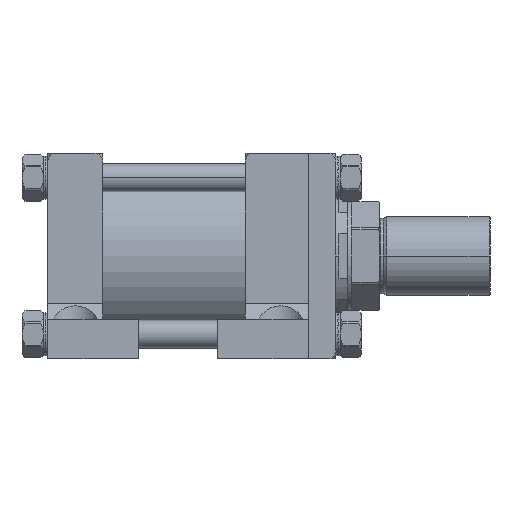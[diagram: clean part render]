
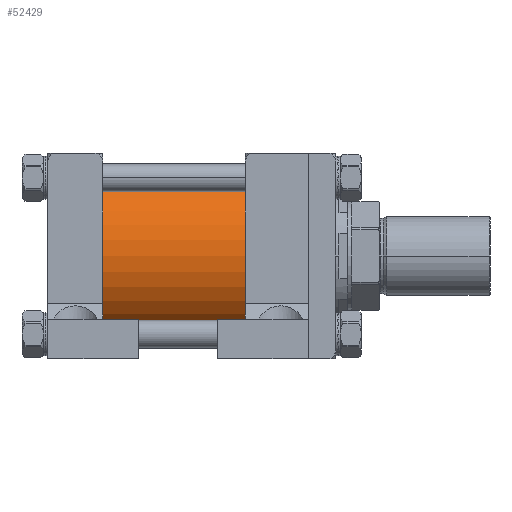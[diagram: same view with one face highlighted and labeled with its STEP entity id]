
A CAD part, front view. The second image highlights one B-rep face of the part: STEP entity #52429.
In plain terms, the highlighted cylindrical face has radius 73.025 mm (diameter 146.05 mm), a partial arc.
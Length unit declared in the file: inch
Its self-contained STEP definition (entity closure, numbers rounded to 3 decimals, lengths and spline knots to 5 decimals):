
#1904 = DIRECTION ( 'NONE',  ( 0., 1., 0. ) ) ;
#2815 = EDGE_CURVE ( 'NONE', #5626, #31009, #49409, .T. ) ;
#2847 = VECTOR ( 'NONE', #6537, 39.37008 ) ;
#3351 = DIRECTION ( 'NONE',  ( 0., 0., -1. ) ) ;
#5626 = VERTEX_POINT ( 'NONE', #52351 ) ;
#6077 = EDGE_LOOP ( 'NONE', ( #14630, #32030, #60642, #41202 ) ) ;
#6237 = EDGE_CURVE ( 'NONE', #16224, #18532, #23238, .T. ) ;
#6537 = DIRECTION ( 'NONE',  ( 1., 0., 0. ) ) ;
#8226 = VECTOR ( 'NONE', #18240, 39.37008 ) ;
#9100 = EDGE_CURVE ( 'NONE', #18532, #31009, #23446, .T. ) ;
#14630 = ORIENTED_EDGE ( 'NONE', *, *, #6237, .F. ) ;
#16224 = VERTEX_POINT ( 'NONE', #23966 ) ;
#16259 = CARTESIAN_POINT ( 'NONE',  ( -4., 0., 0. ) ) ;
#18240 = DIRECTION ( 'NONE',  ( 1., 0., 0. ) ) ;
#18532 = VERTEX_POINT ( 'NONE', #33742 ) ;
#22074 = AXIS2_PLACEMENT_3D ( 'NONE', #25457, #25748, #1904 ) ;
#23238 = LINE ( 'NONE', #29121, #8226 ) ;
#23446 = CIRCLE ( 'NONE', #58431, 2.875 ) ;
#23966 = CARTESIAN_POINT ( 'NONE',  ( -9., 0., 2.875 ) ) ;
#24607 = CYLINDRICAL_SURFACE ( 'NONE', #29052, 2.875 ) ;
#25457 = CARTESIAN_POINT ( 'NONE',  ( -9., 0., 0. ) ) ;
#25748 = DIRECTION ( 'NONE',  ( 1., 0., 0. ) ) ;
#29052 = AXIS2_PLACEMENT_3D ( 'NONE', #41501, #41183, #3351 ) ;
#29121 = CARTESIAN_POINT ( 'NONE',  ( -9., 0., 2.875 ) ) ;
#29194 = EDGE_CURVE ( 'NONE', #16224, #5626, #58111, .T. ) ;
#29984 = DIRECTION ( 'NONE',  ( 1., 0., 0. ) ) ;
#30611 = DIRECTION ( 'NONE',  ( 0., 1., 0. ) ) ;
#31009 = VERTEX_POINT ( 'NONE', #36813 ) ;
#32030 = ORIENTED_EDGE ( 'NONE', *, *, #29194, .T. ) ;
#33742 = CARTESIAN_POINT ( 'NONE',  ( -4., 0., 2.875 ) ) ;
#36813 = CARTESIAN_POINT ( 'NONE',  ( -4., 0., -2.875 ) ) ;
#40537 = CARTESIAN_POINT ( 'NONE',  ( -9., 0., -2.875 ) ) ;
#41183 = DIRECTION ( 'NONE',  ( 1., 0., 0. ) ) ;
#41202 = ORIENTED_EDGE ( 'NONE', *, *, #9100, .F. ) ;
#41501 = CARTESIAN_POINT ( 'NONE',  ( -9., 0., 0. ) ) ;
#48417 = FACE_OUTER_BOUND ( 'NONE', #6077, .T. ) ;
#49409 = LINE ( 'NONE', #40537, #2847 ) ;
#52351 = CARTESIAN_POINT ( 'NONE',  ( -9., 0., -2.875 ) ) ;
#52429 = ADVANCED_FACE ( 'NONE', ( #48417 ), #24607, .T. ) ;
#58111 = CIRCLE ( 'NONE', #22074, 2.875 ) ;
#58431 = AXIS2_PLACEMENT_3D ( 'NONE', #16259, #29984, #30611 ) ;
#60642 = ORIENTED_EDGE ( 'NONE', *, *, #2815, .T. ) ;
